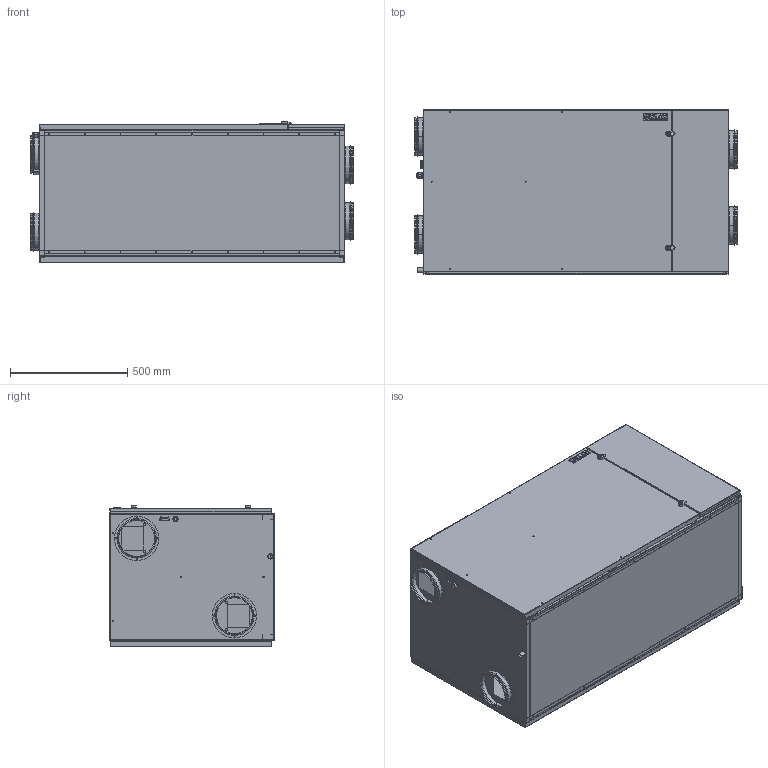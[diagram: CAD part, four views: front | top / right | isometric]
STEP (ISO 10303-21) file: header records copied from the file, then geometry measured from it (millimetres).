
FILE_DESCRIPTION (( 'STEP AP214' ), '1' );
FILE_NAME ('Combi_302_Polar.STEP', '2021-03-11T12:11:47', ( '' ), ( '' ), 'SwSTEP 2.0', 'SolidWorks 2019', '' );
FILE_SCHEMA (( 'AUTOMOTIVE_DESIGN' ));
Length unit declared in the file: millimetre
Products named in the file (16): Combi_300_Polar_CP300N_toplåg; Combi_300_Polar_CP300N_stor_frontplade; Combi_300_Polar_2092-1426; Combi_300_Polar_Panel_block_B40FG.C.00; Combi_300_Polar_20mm_aflobsror_L= 100 mm; Combi_300_Polar_PGxx_ledningsaflastning_EMC_PG11; Combi_300_Polar_Nilan_merkat; Combi_300_Polar_CP300N_bagplade; Combi_300_Polar_CP300N_lille_frontplade; Combi_300_Polar_CP300N_bundvange_front; Combi_300_Polar_CP300N_160mm_rørstuds; Combi_300_Polar_CP300N_højre_sideplade; Combi_300_Polar_CP300N_bundvange_bag; Combi_302_Polar; Combi_300_Polar_CP300N_beklædning_bund_udstilling; Combi_300_Polar_CP300N_venstre_sideplade
Assembly tree (19 placements, depth 2):
  Combi_302_Polar
    Combi_300_Polar_CP300N_160mm_rørstuds  x4
    Combi_300_Polar_CP300N_stor_frontplade
    Combi_300_Polar_CP300N_lille_frontplade
    Combi_300_Polar_Panel_block_B40FG.C.00  x2
    Combi_300_Polar_CP300N_bagplade
    Combi_300_Polar_CP300N_venstre_sideplade
    Combi_300_Polar_CP300N_højre_sideplade
    Combi_300_Polar_CP300N_toplåg
    Combi_300_Polar_CP300N_bundvange_bag
    Combi_300_Polar_CP300N_bundvange_front
    Combi_300_Polar_Nilan_merkat
    Combi_300_Polar_CP300N_beklædning_bund_udstilling
    Combi_300_Polar_20mm_aflobsror_L= 100 mm
    Combi_300_Polar_2092-1426
    Combi_300_Polar_PGxx_ledningsaflastning_EMC_PG11
Bounding box: 1376.6 x 700 x 605 mm (x, y, z)
Volume: 4325494.5 mm3; surface area: 9556608.1 mm2
Topology: 19 solids, 23 shells, 1854 faces, 4678 edges, 2940 vertices
Faces by surface type: plane 1009, cylinder 587, bspline 156, torus 60, cone 42
Entity records: 57959 total; most frequent: CARTESIAN_POINT 16054, ORIENTED_EDGE 8510, DIRECTION 7970, EDGE_CURVE 4255, LINE 2942, VECTOR 2942, VERTEX_POINT 2682, AXIS2_PLACEMENT_3D 2514
